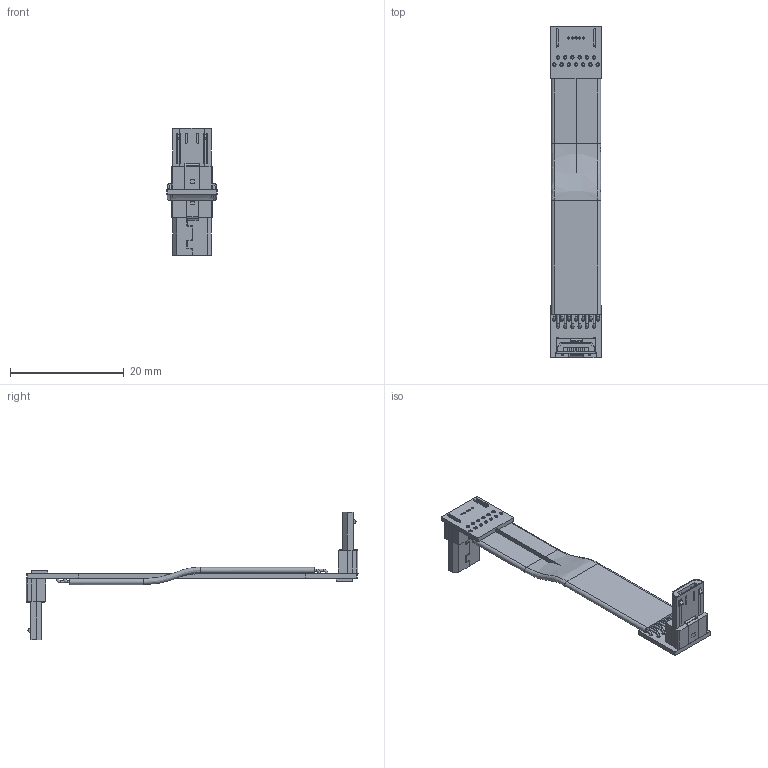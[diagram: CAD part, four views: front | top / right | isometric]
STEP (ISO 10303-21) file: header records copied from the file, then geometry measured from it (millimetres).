
FILE_DESCRIPTION(('Open CASCADE Model'),'2;1');
FILE_NAME('Open CASCADE Shape Model','2020-09-01T10:17:31',('Author'),( 'Open CASCADE'),'Open CASCADE STEP processor 6.8','Open CASCADE 6.8' ,'Unknown');
FILE_SCHEMA(('AUTOMOTIVE_DESIGN { 1 0 10303 214 1 1 1 1 }'));
Length unit declared in the file: millimetre
Products named in the file (34): PCB; Board; Open CASCADE STEP translator 6.8 22.1.1; Designator22_1; USB_micro; Designator22; Free-Models; cable13-US1A
Assembly tree (34 placements, depth 3):
  PCB
    Board
      Open CASCADE STEP translator 6.8 22.1.1
    Designator22_1
      USB_micro
    Designator22
      USB_micro
    Free-Models
      cable13-US1A
      cable13-US1A
      cable13-US1A
      cable13-US1A
      cable13-US1A
      cable13-US1A
      cable13-US1A
      cable13-US1A
      cable13-US1A
      cable13-US1A
      cable13-US1A
      cable13-US1A
      cable13-US1A
      cable13-US1A
      cable13-US1A
      cable13-US1A
      cable13-US1A
      cable13-US1A
      cable13-US1A
      cable13-US1A
      cable13-US1A
      cable13-US1A
      cable13-US1A
      cable13-US1A
      cable13-US1A
      cable13-US1A
      cable13-US1A
Bounding box: 8.83 x 58.37 x 22.36 mm (x, y, z)
Volume: 737.8 mm3; surface area: 2825.7 mm2
Topology: 30 solids, 30 shells, 585 faces, 1422 edges, 911 vertices
Faces by surface type: plane 355, cylinder 165, bspline 33, torus 26, extrusion 6
Full cylindrical faces by diameter (mm): 0.36 x10, 0.4 x59, 0.6 x26
Entity records: 17077 total; most frequent: CARTESIAN_POINT 3677, DIRECTION 2024, ORIENTED_EDGE 1952, EDGE_CURVE 976, AXIS2_PLACEMENT_3D 744, VERTEX_POINT 620, VECTOR 536, FACE_BOUND 534
